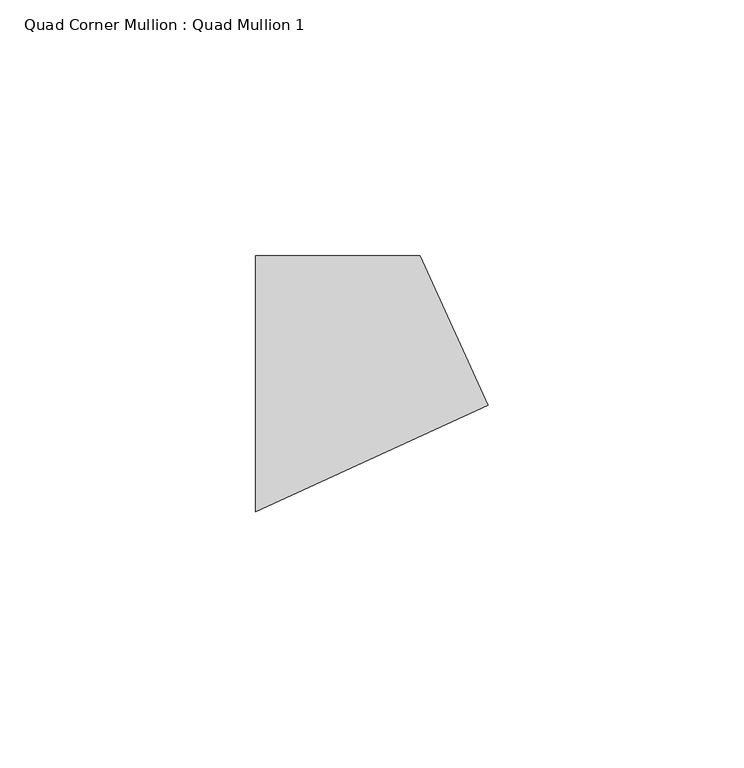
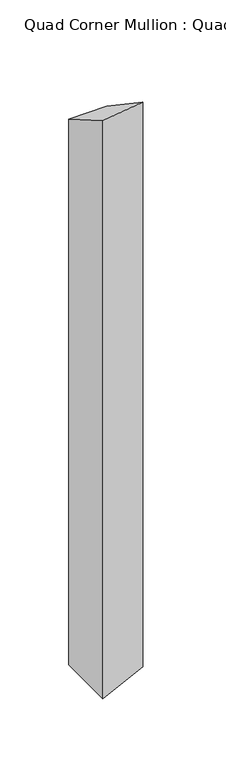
"""IFC4 building model written with IfcOpenShell, lengths in millimetres: member geometry, Quad Corner Mullion : Quad Mullion 1."""

from ifc_helpers import new_model, si_unit, origin, place, context, project, spatial, faceted_brep, source, transform, mapped, element, save


def quad_corner_mullion_quad_mullion_1_bcb00aa4(model_context):
    return source(origin(), model_context, "Body", "Brep", [
        faceted_brep([(29.4125559, -4.1926582, -500.0), (-16.0523154, -25.0, -500.0), (-16.0523154, 25.0, -500.0), (16.0523154, 25.0, -500.0), (16.0523154, 25.0, -14.4337567), (29.4125559, -4.1926582, 2.4206323), (-16.0523154, 25.0, -14.4337567), (-16.0523154, -25.0, 14.4337567)], [[[0, 1, 2, 3]], [[4, 5, 0, 3]], [[6, 4, 3, 2]], [[7, 6, 2, 1]], [[5, 7, 1, 0]], [[5, 4, 6, 7]]]),
    ])


if __name__ == "__main__":
    model = new_model("IFC4")
    model_context = context("Model", 3, world=origin())
    ifc_project = project(units=[si_unit("LENGTHUNIT", "METRE", prefix="MILLI")], contexts=[model_context])
    site = spatial("IfcSite", under=ifc_project)
    building = spatial("IfcBuilding", under=site)
    placement = place(None, origin())
    quad_corner_mullion_quad_mullion_1_shape = quad_corner_mullion_quad_mullion_1_bcb00aa4(model_context)
    element("IfcMember", 1, ObjectType="Quad Corner Mullion : Quad Mullion 1", at=placement, inside=building, context=model_context, shape_type="MappedRepresentation", body=[
        mapped(quad_corner_mullion_quad_mullion_1_shape, transform((0.0, 0.0, 0.0), x_axis=(1.0, 0.0, 0.0), y_axis=(0.0, 1.0, 0.0), z_axis=(0.0, 0.0, 1.0))),
    ])
    save(model, "model.ifc")
